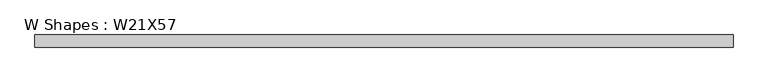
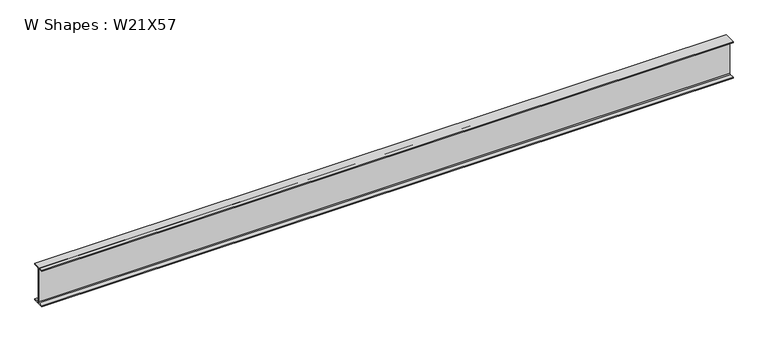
"""IFC4 building model written with IfcOpenShell, lengths in millimetres: beam geometry, W Shapes : W21X57."""

from ifc_helpers import new_model, si_unit, point, frame, frame_2d, origin, place, context, project, spatial, polyline, circle_curve, trimmed, segment, composite_curve, outline, extrude, source, transform, mapped, element, save


def w_shapes_w21x57_da67b83a(model_context):
    return source(origin(), model_context, "Body", "SweptSolid", [
        extrude(outline(composite_curve([segment(polyline([(83.312, -251.46), (83.312, -267.97), (-83.312, -267.97), (-83.312, -251.46), (-17.907, -251.46)]), True, "CONTINUOUS"), segment(trimmed(circle_curve(frame_2d((-17.907, -238.76)), 12.7), [point((-17.907, -251.46))], [point((-5.207, -238.76))], True, "CARTESIAN"), True, "CONTINUOUS"), segment(polyline([(-5.207, -238.76), (-5.207, 238.76)]), True, "CONTINUOUS"), segment(trimmed(circle_curve(frame_2d((-17.907, 238.76)), 12.7), [point((-5.207, 238.76))], [point((-17.907, 251.46))], True, "CARTESIAN"), True, "CONTINUOUS"), segment(polyline([(-17.907, 251.46), (-83.312, 251.46), (-83.312, 267.97), (83.312, 267.97), (83.312, 251.46), (17.907, 251.46)]), True, "CONTINUOUS"), segment(trimmed(circle_curve(frame_2d((17.907, 238.76)), 12.7), [point((17.907, 251.46))], [point((5.207, 238.76))], True, "CARTESIAN"), True, "CONTINUOUS"), segment(polyline([(5.207, 238.76), (5.207, -238.76)]), True, "CONTINUOUS"), segment(trimmed(circle_curve(frame_2d((17.907, -238.76)), 12.7), [point((5.207, -238.76))], [point((17.907, -251.46))], True, "CARTESIAN"), True, "CONTINUOUS"), segment(polyline([(17.907, -251.46), (83.312, -251.46)]), True, "CONTINUOUS")], self_intersect=False)), frame((-4787.899694, 0.0, 0.0), z_axis=(1.0, 0.0, 0.0), x_axis=(0.0, 1.0, 0.0)), (0.0, 0.0, 1.0), 9575.799388),
    ])


if __name__ == "__main__":
    model = new_model("IFC4")
    model_context = context("Model", 3, world=origin())
    ifc_project = project(units=[si_unit("LENGTHUNIT", "METRE", prefix="MILLI")], contexts=[model_context])
    site = spatial("IfcSite", under=ifc_project)
    building = spatial("IfcBuilding", under=site)
    placement = place(None, origin())
    w_shapes_w21x57_shape = w_shapes_w21x57_da67b83a(model_context)
    element("IfcBeam", 1, ObjectType="W Shapes : W21X57", at=placement, inside=building, context=model_context, shape_type="MappedRepresentation", body=[
        mapped(w_shapes_w21x57_shape, transform((0.0, 0.0, 0.0), x_axis=(1.0, 0.0, 0.0), y_axis=(0.0, 1.0, 0.0), z_axis=(0.0, 0.0, 1.0))),
    ])
    save(model, "model.ifc")
